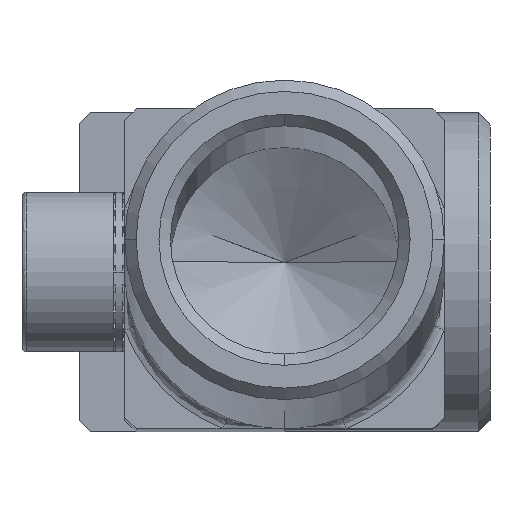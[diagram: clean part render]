
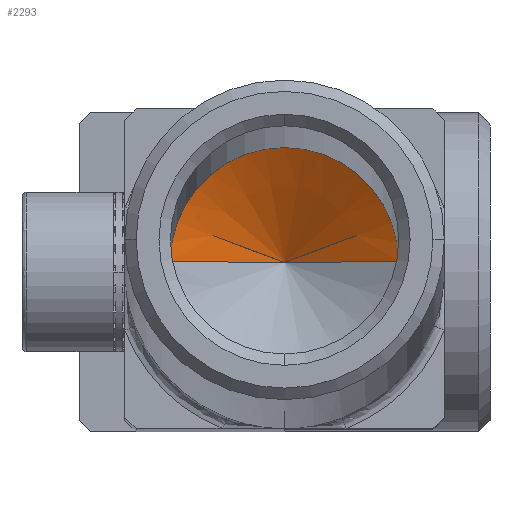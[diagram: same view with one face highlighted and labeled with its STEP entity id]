
A CAD part, left-side view. The second image highlights one B-rep face of the part: STEP entity #2293.
In plain terms, the highlighted conical face has half-angle 59 degrees and reference radius 1664.28 mm.
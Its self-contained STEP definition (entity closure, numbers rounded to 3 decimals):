
#2293 = ADVANCED_FACE ( 'NONE', ( #10493 ), #18011, .F. ) ;
#3299 = AXIS2_PLACEMENT_3D ( 'NONE', #17540, #5507, #19553 ) ;
#3376 = LINE ( 'NONE', #6179, #8129 ) ;
#3742 = DIRECTION ( 'NONE',  ( 0., 1., 0. ) ) ;
#3827 = EDGE_CURVE ( 'NONE', #15974, #17599, #19663, .T. ) ;
#3838 = VERTEX_POINT ( 'NONE', #21969 ) ;
#5507 = DIRECTION ( 'NONE',  ( 1., 0., -0.016 ) ) ;
#6179 = CARTESIAN_POINT ( 'NONE',  ( -50.255, 9.185, 0.417 ) ) ;
#7726 = DIRECTION ( 'NONE',  ( -1., 0., 0.016 ) ) ;
#8129 = VECTOR ( 'NONE', #14156, 1000. ) ;
#8450 = ORIENTED_EDGE ( 'NONE', *, *, #22501, .T. ) ;
#9621 = VECTOR ( 'NONE', #19977, 1000. ) ;
#10493 = FACE_OUTER_BOUND ( 'NONE', #20000, .T. ) ;
#13868 = CARTESIAN_POINT ( 'NONE',  ( -53.259, 14.185, 0.464 ) ) ;
#14156 = DIRECTION ( 'NONE',  ( -0.515, -0.857, 0.008 ) ) ;
#14667 = EDGE_CURVE ( 'NONE', #17599, #3838, #22481, .T. ) ;
#15974 = VERTEX_POINT ( 'NONE', #20053 ) ;
#17540 = CARTESIAN_POINT ( 'NONE',  ( -53.259, 9.185, 0.464 ) ) ;
#17599 = VERTEX_POINT ( 'NONE', #13868 ) ;
#17946 = CARTESIAN_POINT ( 'NONE',  ( -50.255, 9.185, 0.417 ) ) ;
#18011 = CONICAL_SURFACE ( 'NONE', #19841, 1664.279, 1.03 ) ;
#19553 = DIRECTION ( 'NONE',  ( 0.016, 0., 1. ) ) ;
#19663 = LINE ( 'NONE', #17946, #9621 ) ;
#19739 = CARTESIAN_POINT ( 'NONE',  ( -1050.129, 9.185, 16.265 ) ) ;
#19841 = AXIS2_PLACEMENT_3D ( 'NONE', #19739, #7726, #3742 ) ;
#19977 = DIRECTION ( 'NONE',  ( -0.515, 0.857, 0.008 ) ) ;
#20000 = EDGE_LOOP ( 'NONE', ( #25792, #8450, #23756 ) ) ;
#20053 = CARTESIAN_POINT ( 'NONE',  ( -50.255, 9.185, 0.417 ) ) ;
#21969 = CARTESIAN_POINT ( 'NONE',  ( -53.259, 4.185, 0.464 ) ) ;
#22481 = CIRCLE ( 'NONE', #3299, 5. ) ;
#22501 = EDGE_CURVE ( 'NONE', #15974, #3838, #3376, .T. ) ;
#23756 = ORIENTED_EDGE ( 'NONE', *, *, #14667, .F. ) ;
#25792 = ORIENTED_EDGE ( 'NONE', *, *, #3827, .F. ) ;
